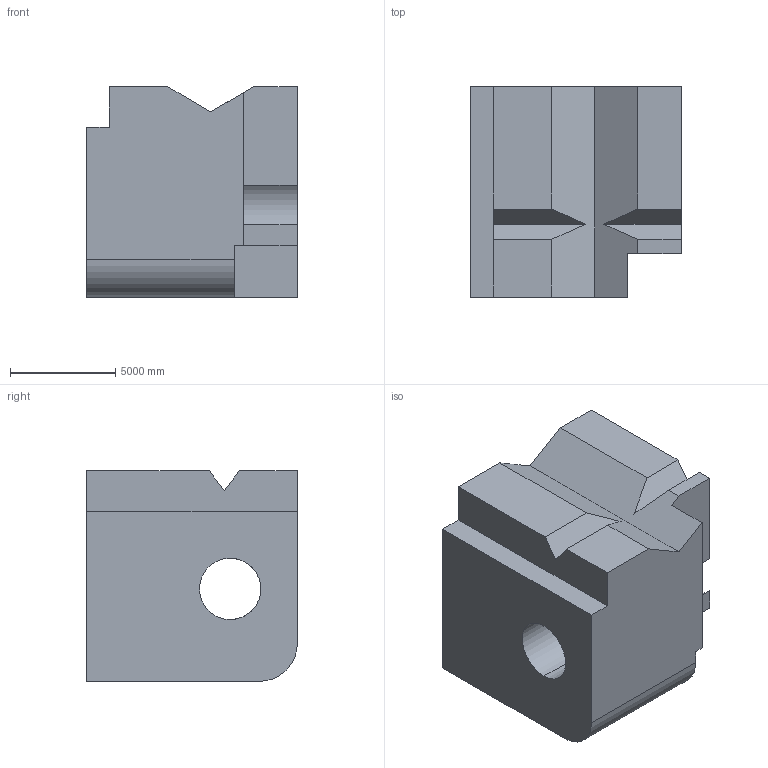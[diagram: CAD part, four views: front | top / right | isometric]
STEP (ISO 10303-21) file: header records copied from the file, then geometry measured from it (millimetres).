
FILE_DESCRIPTION (( 'STEP AP203' ), '1' );
FILE_NAME ('614.STEP', '2022-07-29T12:06:15', ( 'user' ), ( '' ), 'SwSTEP 2.0', 'SolidWorks 2021', '' );
FILE_SCHEMA (( 'CONFIG_CONTROL_DESIGN' ));
Length unit declared in the file: centimetre
Products named in the file (1): 614
Bounding box: 10000 x 10000 x 10000 mm (x, y, z)
Volume: 819457047482.5 mm3; surface area: 651903655.5 mm2
Topology: 1 solids, 1 shells, 26 faces, 75 edges, 50 vertices
Faces by surface type: plane 23, cylinder 3
Entity records: 928 total; most frequent: CARTESIAN_POINT 152, ORIENTED_EDGE 150, DIRECTION 137, EDGE_CURVE 75, VECTOR 67, LINE 67, VERTEX_POINT 50, AXIS2_PLACEMENT_3D 35
